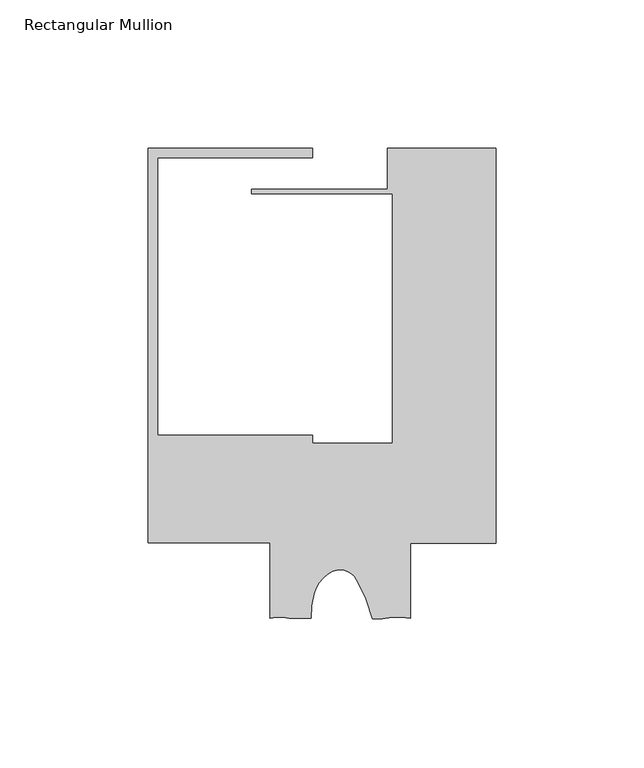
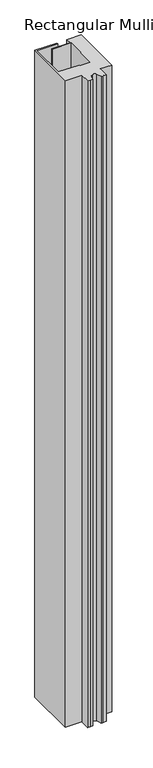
"""IFC4 building model written with IfcOpenShell, lengths in millimetres: member geometry, Rectangular Mullion : SSG Chicken Head Stack."""

from ifc_helpers import new_model, si_unit, point, frame, frame_2d, origin, place, context, project, spatial, polyline, circle_curve, trimmed, segment, composite_curve, outline, extrude, source, transform, mapped, element, save


def rectangular_mullion_882669de(model_context):
    return source(origin(), model_context, "Body", "SweptSolid", [
        extrude(outline(composite_curve([segment(polyline([(-61.8998316, 114.30254), (-61.8998316, 111.1275493), (-114.2999537, 111.1275493), (-114.2999537, 17.4529386), (-61.8998316, 17.4529386), (-61.8998316, 14.7454592), (-34.9249745, 14.7454592), (-34.9249745, 98.8645), (-82.5631556, 98.8645), (-82.5631556, 100.4392965), (-36.5130248, 100.4392965), (-36.5130248, 114.30254), (0.0, 114.30254), (0.0, -19.0105392), (-28.8269516, -19.0105392), (-28.8269516, -44.4474117)]), True, "CONTINUOUS"), segment(trimmed(circle_curve(frame_2d((-33.1476014, -62.8360436)), 18.8894097), [point((-28.8269516, -44.4474117))], [point((-38.2445073, -44.6472738))], True, "CARTESIAN"), True, "CONTINUOUS"), segment(polyline([(-38.2445073, -44.6472738), (-41.5672865, -44.6472738)]), True, "CONTINUOUS"), segment(trimmed(circle_curve(frame_2d((-97.293137, -59.6417247)), 57.7079196), [point((-41.5672865, -44.6472738))], [point((-46.9720625, -31.3929471))], True, "CARTESIAN"), True, "CONTINUOUS"), segment(trimmed(circle_curve(frame_2d((-52.6525939, -34.6082248)), 6.5273615), [point((-46.9720625, -31.3929471))], [point((-55.1040936, -28.5587126))], True, "CARTESIAN"), True, "CONTINUOUS"), segment(trimmed(circle_curve(frame_2d((-50.1789816, -39.0935196)), 11.6292255), [point((-55.1040936, -28.5587126))], [point((-61.4242559, -36.1299588))], True, "CARTESIAN"), True, "CONTINUOUS"), segment(trimmed(circle_curve(frame_2d((-34.9526432, -43.4006193)), 27.4519359), [point((-61.4242559, -36.1299588))], [point((-62.3846191, -44.4472729))], True, "CARTESIAN"), True, "CONTINUOUS"), segment(polyline([(-62.3846191, -44.4472729), (-69.8380861, -44.4472729)]), True, "CONTINUOUS"), segment(trimmed(circle_curve(frame_2d((-73.0099098, -56.9363285)), 12.8855336), [point((-69.8380861, -44.4472729))], [point((-76.1936616, -44.4503083))], True, "CARTESIAN"), True, "CONTINUOUS"), segment(polyline([(-76.1936616, -44.4503083), (-76.1936616, -18.9749813), (-117.475, -18.9749813), (-117.475, 114.30254), (-61.8998316, 114.30254)]), True, "CONTINUOUS")], self_intersect=False)), frame((0.0, 0.0, -1727.2), z_axis=(0.0, 0.0, 1.0), x_axis=(1.0, 0.0, 0.0)), (0.0, 0.0, 1.0), 1727.2),
    ])


if __name__ == "__main__":
    model = new_model("IFC4")
    model_context = context("Model", 3, world=origin())
    ifc_project = project(units=[si_unit("LENGTHUNIT", "METRE", prefix="MILLI")], contexts=[model_context])
    site = spatial("IfcSite", under=ifc_project)
    building = spatial("IfcBuilding", under=site)
    placement = place(None, origin())
    rectangular_mullion_shape = rectangular_mullion_882669de(model_context)
    element("IfcMember", 1, ObjectType="Rectangular Mullion : SSG Chicken Head Stack", at=placement, inside=building, context=model_context, shape_type="MappedRepresentation", body=[
        mapped(rectangular_mullion_shape, transform((0.0, 0.0, 0.0), x_axis=(1.0, 0.0, 0.0), y_axis=(0.0, 1.0, 0.0), z_axis=(0.0, 0.0, 1.0))),
    ])
    save(model, "model.ifc")
